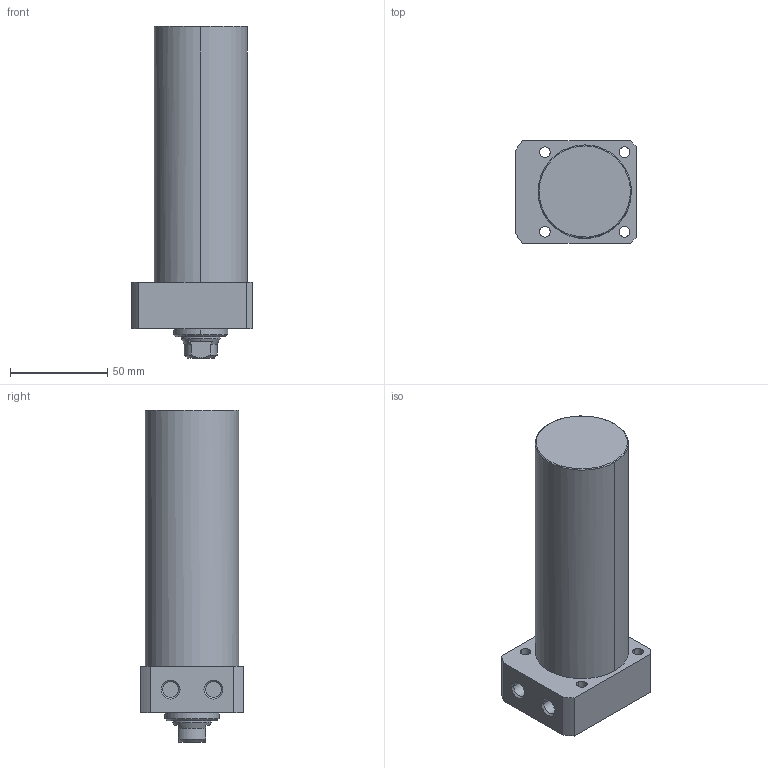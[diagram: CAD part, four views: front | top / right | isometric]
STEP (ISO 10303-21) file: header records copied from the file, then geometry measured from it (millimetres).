
FILE_DESCRIPTION((' '),'2;1');
FILE_NAME( 'TLLR-048CA-105.STEP.stp', '2025-10-24T16:34:31', (' '), ('--- Datakit www.datakit.com---'), ' Datakit CrossCadWare V2024.1 Dec 21 2023', 'Mastercam 2025', ' ');
FILE_SCHEMA(('AUTOMOTIVE_DESIGN { 1 0 10303 214 1 1 1 1 }'));
Length unit declared in the file: millimetre
Products named in the file (1): TLLR-048CA-105
Bounding box: 62 x 53 x 171 mm (x, y, z)
Volume: 317211.7 mm3; surface area: 35268.6 mm2
Topology: 1 solids, 1 shells, 63 faces, 177 edges, 122 vertices
Faces by surface type: cylinder 28, plane 19, cone 14, torus 2
Entity records: 2172 total; most frequent: CARTESIAN_POINT 409, DIRECTION 400, ORIENTED_EDGE 350, EDGE_CURVE 175, AXIS2_PLACEMENT_3D 169, VERTEX_POINT 122, CIRCLE 105, EDGE_LOOP 79
